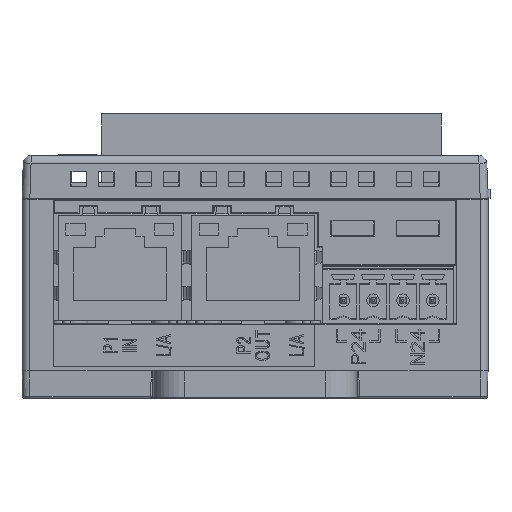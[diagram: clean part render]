
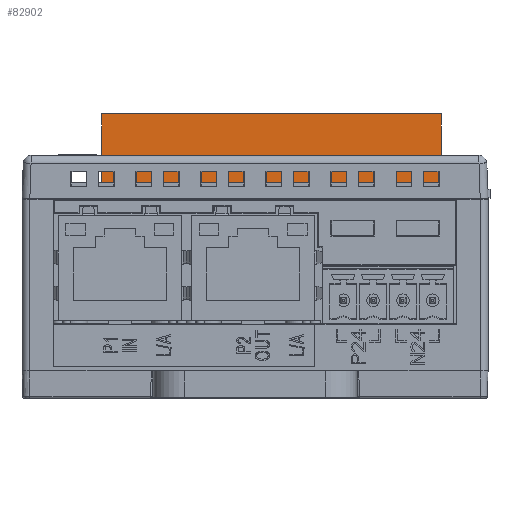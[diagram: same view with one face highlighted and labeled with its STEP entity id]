
A CAD part, front view. The second image highlights one B-rep face of the part: STEP entity #82902.
In plain terms, the highlighted planar face has unit normal (0, -1, 0).
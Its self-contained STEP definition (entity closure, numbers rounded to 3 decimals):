
#10189=DIRECTION('',(1.,0.,0.));
#10190=VECTOR('',#10189,43.3);
#10191=CARTESIAN_POINT('',(-19.55,-19.15,27.5));
#10192=LINE('',#10191,#10190);
#12625=DIRECTION('',(0.,0.,-1.));
#12626=VECTOR('',#12625,8.8);
#12627=CARTESIAN_POINT('',(23.75,-19.15,36.3));
#12628=LINE('',#12627,#12626);
#12633=DIRECTION('',(0.,0.,-1.));
#12634=VECTOR('',#12633,8.8);
#12635=CARTESIAN_POINT('',(-19.55,-19.15,36.3));
#12636=LINE('',#12635,#12634);
#12637=DIRECTION('',(-1.,0.,0.));
#12638=VECTOR('',#12637,43.3);
#12639=CARTESIAN_POINT('',(23.75,-19.15,36.3));
#12640=LINE('',#12639,#12638);
#46864=CARTESIAN_POINT('',(-19.55,-19.15,36.3));
#46866=VERTEX_POINT('',#46864);
#46870=CARTESIAN_POINT('',(23.75,-19.15,36.3));
#46871=VERTEX_POINT('',#46870);
#58149=CARTESIAN_POINT('',(-19.55,-19.15,27.5));
#58151=VERTEX_POINT('',#58149);
#58152=CARTESIAN_POINT('',(23.75,-19.15,27.5));
#58153=VERTEX_POINT('',#58152);
#82890=CARTESIAN_POINT('',(2.1,-19.15,31.7));
#82891=DIRECTION('',(0.,1.,0.));
#82892=DIRECTION('',(1.,0.,0.));
#82893=AXIS2_PLACEMENT_3D('',#82890,#82891,#82892);
#82894=PLANE('',#82893);
#82895=ORIENTED_EDGE('',*,*,#79047,.F.);
#82896=ORIENTED_EDGE('',*,*,#82836,.F.);
#82898=ORIENTED_EDGE('',*,*,#82897,.F.);
#82899=ORIENTED_EDGE('',*,*,#82875,.T.);
#82900=EDGE_LOOP('',(#82895,#82896,#82898,#82899));
#82901=FACE_OUTER_BOUND('',#82900,.F.);
#82902=ADVANCED_FACE('',(#82901),#82894,.F.);
#79047=EDGE_CURVE('',#58151,#58153,#10192,.T.);
#82836=EDGE_CURVE('',#46866,#58151,#12636,.T.);
#82875=EDGE_CURVE('',#46871,#58153,#12628,.T.);
#82897=EDGE_CURVE('',#46871,#46866,#12640,.T.);
